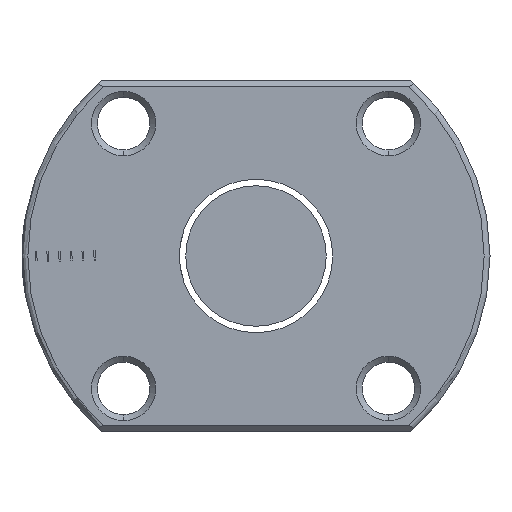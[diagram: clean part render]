
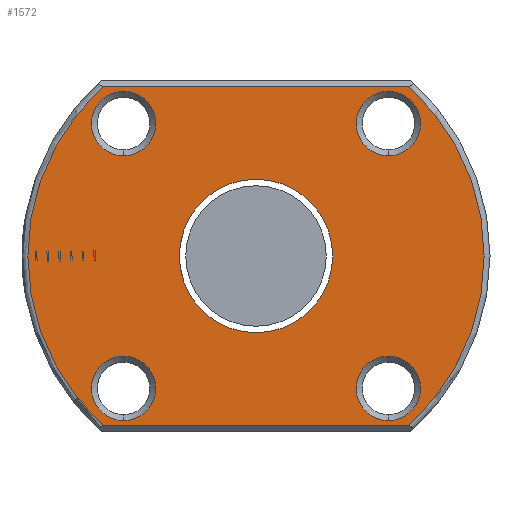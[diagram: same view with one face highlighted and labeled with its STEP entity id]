
A CAD part, left-side view. The second image highlights one B-rep face of the part: STEP entity #1572.
In plain terms, the highlighted planar face has unit normal (-1, 0, 0).
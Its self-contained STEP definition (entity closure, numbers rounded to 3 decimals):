
#29 = VERTEX_POINT ( 'NONE', #785 ) ;
#59 = VERTEX_POINT ( 'NONE', #2863 ) ;
#75 = PLANE ( 'NONE',  #1469 ) ;
#79 = DIRECTION ( 'NONE',  ( 0., 0., 1. ) ) ;
#93 = ORIENTED_EDGE ( 'NONE', *, *, #755, .T. ) ;
#106 = CIRCLE ( 'NONE', #1013, 2.75 ) ;
#110 = FACE_BOUND ( 'NONE', #3018, .T. ) ;
#137 = EDGE_CURVE ( 'NONE', #3077, #2273, #516, .T. ) ;
#146 = CARTESIAN_POINT ( 'NONE',  ( -42., 11.314, -8.564 ) ) ;
#165 = VERTEX_POINT ( 'NONE', #2688 ) ;
#202 = ORIENTED_EDGE ( 'NONE', *, *, #2815, .T. ) ;
#255 = ORIENTED_EDGE ( 'NONE', *, *, #137, .T. ) ;
#304 = EDGE_LOOP ( 'NONE', ( #333, #1724 ) ) ;
#333 = ORIENTED_EDGE ( 'NONE', *, *, #3054, .T. ) ;
#359 = CARTESIAN_POINT ( 'NONE',  ( -42., 0., 0. ) ) ;
#381 = EDGE_LOOP ( 'NONE', ( #935, #2426, #669, #255 ) ) ;
#394 = DIRECTION ( 'NONE',  ( -1., 0., 0. ) ) ;
#415 = DIRECTION ( 'NONE',  ( 1., 0., 0. ) ) ;
#464 = AXIS2_PLACEMENT_3D ( 'NONE', #686, #1198, #79 ) ;
#468 = DIRECTION ( 'NONE',  ( 1., 0., 0. ) ) ;
#516 = LINE ( 'NONE', #804, #2324 ) ;
#535 = CARTESIAN_POINT ( 'NONE',  ( -42., 0., 0. ) ) ;
#537 = CARTESIAN_POINT ( 'NONE',  ( -42., 11.314, 8.564 ) ) ;
#623 = VERTEX_POINT ( 'NONE', #2350 ) ;
#647 = FACE_BOUND ( 'NONE', #2213, .T. ) ;
#669 = ORIENTED_EDGE ( 'NONE', *, *, #2567, .T. ) ;
#672 = CARTESIAN_POINT ( 'NONE',  ( -42., 0., 6.55 ) ) ;
#680 = CIRCLE ( 'NONE', #1186, 19.5 ) ;
#686 = CARTESIAN_POINT ( 'NONE',  ( -42., 11.314, -11.314 ) ) ;
#695 = CARTESIAN_POINT ( 'NONE',  ( -42., 0., 0. ) ) ;
#714 = DIRECTION ( 'NONE',  ( 0., 0., 1. ) ) ;
#719 = VERTEX_POINT ( 'NONE', #2330 ) ;
#733 = DIRECTION ( 'NONE',  ( 1., 0., 0. ) ) ;
#755 = EDGE_CURVE ( 'NONE', #2216, #719, #106, .T. ) ;
#785 = CARTESIAN_POINT ( 'NONE',  ( -42., 11.314, -14.064 ) ) ;
#804 = CARTESIAN_POINT ( 'NONE',  ( -42., 20., 14.5 ) ) ;
#846 = VERTEX_POINT ( 'NONE', #537 ) ;
#848 = CIRCLE ( 'NONE', #2389, 6.55 ) ;
#915 = DIRECTION ( 'NONE',  ( 0., 0., 1. ) ) ;
#931 = CARTESIAN_POINT ( 'NONE',  ( -42., 13.038, -14.5 ) ) ;
#935 = ORIENTED_EDGE ( 'NONE', *, *, #3387, .T. ) ;
#953 = CARTESIAN_POINT ( 'NONE',  ( -42., 20., -14.5 ) ) ;
#996 = DIRECTION ( 'NONE',  ( 0., 0., 1. ) ) ;
#1013 = AXIS2_PLACEMENT_3D ( 'NONE', #2747, #3282, #2764 ) ;
#1025 = ORIENTED_EDGE ( 'NONE', *, *, #2858, .T. ) ;
#1113 = EDGE_CURVE ( 'NONE', #2786, #29, #1515, .T. ) ;
#1130 = CARTESIAN_POINT ( 'NONE',  ( -42., 11.314, -11.314 ) ) ;
#1141 = EDGE_CURVE ( 'NONE', #1507, #623, #2762, .T. ) ;
#1150 = ORIENTED_EDGE ( 'NONE', *, *, #2102, .T. ) ;
#1172 = CARTESIAN_POINT ( 'NONE',  ( -42., -11.314, -11.314 ) ) ;
#1182 = AXIS2_PLACEMENT_3D ( 'NONE', #2085, #733, #714 ) ;
#1186 = AXIS2_PLACEMENT_3D ( 'NONE', #359, #2533, #2737 ) ;
#1198 = DIRECTION ( 'NONE',  ( 1., 0., 0. ) ) ;
#1199 = CIRCLE ( 'NONE', #2518, 2.75 ) ;
#1237 = ORIENTED_EDGE ( 'NONE', *, *, #1113, .T. ) ;
#1254 = EDGE_LOOP ( 'NONE', ( #93, #2093 ) ) ;
#1292 = AXIS2_PLACEMENT_3D ( 'NONE', #1172, #415, #2758 ) ;
#1400 = CARTESIAN_POINT ( 'NONE',  ( -42., -11.314, -11.314 ) ) ;
#1404 = AXIS2_PLACEMENT_3D ( 'NONE', #2374, #468, #996 ) ;
#1440 = VERTEX_POINT ( 'NONE', #3191 ) ;
#1454 = DIRECTION ( 'NONE',  ( 0., -1., 0. ) ) ;
#1463 = DIRECTION ( 'NONE',  ( 1., 0., 0. ) ) ;
#1465 = CARTESIAN_POINT ( 'NONE',  ( -42., 12., 0. ) ) ;
#1469 = AXIS2_PLACEMENT_3D ( 'NONE', #1465, #394, #1980 ) ;
#1504 = DIRECTION ( 'NONE',  ( 1., 0., 0. ) ) ;
#1507 = VERTEX_POINT ( 'NONE', #931 ) ;
#1515 = CIRCLE ( 'NONE', #464, 2.75 ) ;
#1572 = ADVANCED_FACE ( 'NONE', ( #110, #647, #2983, #2756, #3255, #3273 ), #75, .T. ) ;
#1582 = DIRECTION ( 'NONE',  ( 0., 1., 0. ) ) ;
#1602 = DIRECTION ( 'NONE',  ( 0., 0., 1. ) ) ;
#1701 = DIRECTION ( 'NONE',  ( 0., 0., -1. ) ) ;
#1724 = ORIENTED_EDGE ( 'NONE', *, *, #2711, .T. ) ;
#1734 = CARTESIAN_POINT ( 'NONE',  ( -42., 0., 0. ) ) ;
#1953 = EDGE_CURVE ( 'NONE', #29, #2786, #3231, .T. ) ;
#1980 = DIRECTION ( 'NONE',  ( 0., 0., 1. ) ) ;
#1996 = ORIENTED_EDGE ( 'NONE', *, *, #1953, .T. ) ;
#2008 = CIRCLE ( 'NONE', #1182, 2.75 ) ;
#2085 = CARTESIAN_POINT ( 'NONE',  ( -42., 11.314, 11.314 ) ) ;
#2093 = ORIENTED_EDGE ( 'NONE', *, *, #3078, .T. ) ;
#2102 = EDGE_CURVE ( 'NONE', #59, #1440, #1199, .T. ) ;
#2193 = EDGE_LOOP ( 'NONE', ( #1025, #1150 ) ) ;
#2207 = DIRECTION ( 'NONE',  ( 0., 0., -1. ) ) ;
#2213 = EDGE_LOOP ( 'NONE', ( #1237, #1996 ) ) ;
#2216 = VERTEX_POINT ( 'NONE', #2526 ) ;
#2232 = VECTOR ( 'NONE', #1454, 1000. ) ;
#2241 = DIRECTION ( 'NONE',  ( 1., 0., 0. ) ) ;
#2259 = CARTESIAN_POINT ( 'NONE',  ( -42., 11.314, 11.314 ) ) ;
#2273 = VERTEX_POINT ( 'NONE', #3336 ) ;
#2276 = CARTESIAN_POINT ( 'NONE',  ( -42., 11.314, 14.064 ) ) ;
#2324 = VECTOR ( 'NONE', #1582, 1000. ) ;
#2330 = CARTESIAN_POINT ( 'NONE',  ( -42., -11.314, 8.564 ) ) ;
#2346 = ORIENTED_EDGE ( 'NONE', *, *, #3308, .T. ) ;
#2350 = CARTESIAN_POINT ( 'NONE',  ( -42., -13.038, -14.5 ) ) ;
#2374 = CARTESIAN_POINT ( 'NONE',  ( -42., -11.314, 11.314 ) ) ;
#2389 = AXIS2_PLACEMENT_3D ( 'NONE', #1734, #2241, #2207 ) ;
#2426 = ORIENTED_EDGE ( 'NONE', *, *, #1141, .T. ) ;
#2506 = DIRECTION ( 'NONE',  ( 0., 0., 1. ) ) ;
#2518 = AXIS2_PLACEMENT_3D ( 'NONE', #1400, #1504, #2506 ) ;
#2526 = CARTESIAN_POINT ( 'NONE',  ( -42., -11.314, 14.064 ) ) ;
#2533 = DIRECTION ( 'NONE',  ( -1., 0., 0. ) ) ;
#2567 = EDGE_CURVE ( 'NONE', #623, #3077, #3434, .T. ) ;
#2678 = AXIS2_PLACEMENT_3D ( 'NONE', #1130, #2729, #1602 ) ;
#2688 = CARTESIAN_POINT ( 'NONE',  ( -42., 0., -6.55 ) ) ;
#2711 = EDGE_CURVE ( 'NONE', #846, #2730, #2941, .T. ) ;
#2727 = CIRCLE ( 'NONE', #2947, 6.55 ) ;
#2729 = DIRECTION ( 'NONE',  ( 1., 0., 0. ) ) ;
#2730 = VERTEX_POINT ( 'NONE', #2276 ) ;
#2737 = DIRECTION ( 'NONE',  ( 0., 0., 1. ) ) ;
#2747 = CARTESIAN_POINT ( 'NONE',  ( -42., -11.314, 11.314 ) ) ;
#2756 = FACE_BOUND ( 'NONE', #1254, .T. ) ;
#2758 = DIRECTION ( 'NONE',  ( 0., 0., 1. ) ) ;
#2762 = LINE ( 'NONE', #953, #2232 ) ;
#2764 = DIRECTION ( 'NONE',  ( 0., 0., 1. ) ) ;
#2780 = AXIS2_PLACEMENT_3D ( 'NONE', #535, #3427, #3240 ) ;
#2786 = VERTEX_POINT ( 'NONE', #146 ) ;
#2815 = EDGE_CURVE ( 'NONE', #165, #3033, #848, .T. ) ;
#2842 = CARTESIAN_POINT ( 'NONE',  ( -42., -13.038, 14.5 ) ) ;
#2858 = EDGE_CURVE ( 'NONE', #1440, #59, #3334, .T. ) ;
#2863 = CARTESIAN_POINT ( 'NONE',  ( -42., -11.314, -14.064 ) ) ;
#2888 = CIRCLE ( 'NONE', #1404, 2.75 ) ;
#2941 = CIRCLE ( 'NONE', #3165, 2.75 ) ;
#2947 = AXIS2_PLACEMENT_3D ( 'NONE', #695, #1463, #1701 ) ;
#2983 = FACE_BOUND ( 'NONE', #304, .T. ) ;
#3018 = EDGE_LOOP ( 'NONE', ( #202, #2346 ) ) ;
#3033 = VERTEX_POINT ( 'NONE', #672 ) ;
#3054 = EDGE_CURVE ( 'NONE', #2730, #846, #2008, .T. ) ;
#3070 = DIRECTION ( 'NONE',  ( 1., 0., 0. ) ) ;
#3077 = VERTEX_POINT ( 'NONE', #2842 ) ;
#3078 = EDGE_CURVE ( 'NONE', #719, #2216, #2888, .T. ) ;
#3165 = AXIS2_PLACEMENT_3D ( 'NONE', #2259, #3070, #915 ) ;
#3191 = CARTESIAN_POINT ( 'NONE',  ( -42., -11.314, -8.564 ) ) ;
#3231 = CIRCLE ( 'NONE', #2678, 2.75 ) ;
#3240 = DIRECTION ( 'NONE',  ( 0., 0., 1. ) ) ;
#3255 = FACE_BOUND ( 'NONE', #2193, .T. ) ;
#3273 = FACE_OUTER_BOUND ( 'NONE', #381, .T. ) ;
#3282 = DIRECTION ( 'NONE',  ( 1., 0., 0. ) ) ;
#3308 = EDGE_CURVE ( 'NONE', #3033, #165, #2727, .T. ) ;
#3334 = CIRCLE ( 'NONE', #1292, 2.75 ) ;
#3336 = CARTESIAN_POINT ( 'NONE',  ( -42., 13.038, 14.5 ) ) ;
#3387 = EDGE_CURVE ( 'NONE', #2273, #1507, #680, .T. ) ;
#3427 = DIRECTION ( 'NONE',  ( -1., 0., 0. ) ) ;
#3434 = CIRCLE ( 'NONE', #2780, 19.5 ) ;
